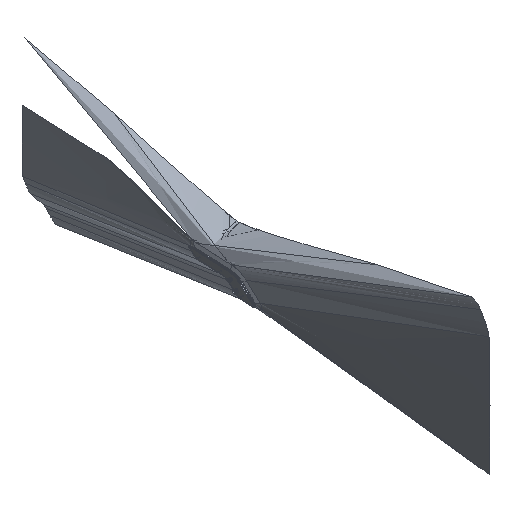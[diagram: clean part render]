
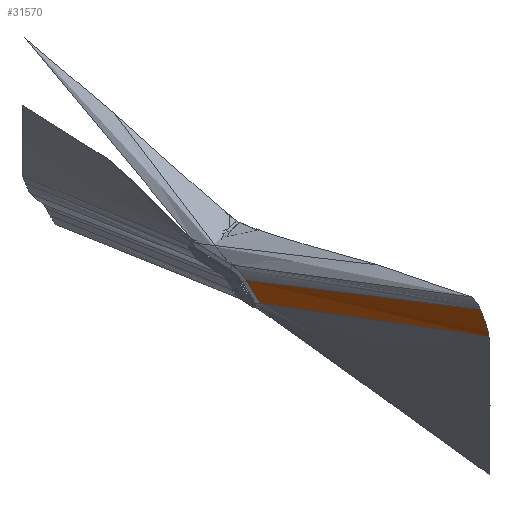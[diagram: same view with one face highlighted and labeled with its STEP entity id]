
A CAD part, isometric view. The second image highlights one B-rep face of the part: STEP entity #31570.
In plain terms, the highlighted free-form (B-spline) face has degree [5, 1] with [9, 2] control points.
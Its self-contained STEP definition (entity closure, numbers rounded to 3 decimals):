
#17750=CARTESIAN_POINT('Vertex',(25.,76.149,92.814)) ;
#18334=CARTESIAN_POINT('Control Point',(25.,76.149,92.814)) ;
#18335=CARTESIAN_POINT('Control Point',(200.,-1124.274,457.232)) ;
#18336=CARTESIAN_POINT('Vertex',(200.,-1124.274,457.232)) ;
#24392=CARTESIAN_POINT('Control Point',(25.,-6.43,17.145)) ;
#24393=CARTESIAN_POINT('Control Point',(200.,-1173.596,344.205)) ;
#24394=CARTESIAN_POINT('Vertex',(25.,-6.43,17.145)) ;
#24396=CARTESIAN_POINT('Vertex',(200.,-1173.596,344.205)) ;
#31506=CARTESIAN_POINT('Control Point',(25.,76.149,92.814)) ;
#31507=CARTESIAN_POINT('Control Point',(446.154,-2812.782,969.821)) ;
#31508=CARTESIAN_POINT('Control Point',(25.,65.324,82.895)) ;
#31509=CARTESIAN_POINT('Control Point',(446.533,-2815.476,960.507)) ;
#31510=CARTESIAN_POINT('Control Point',(25.,54.497,72.974)) ;
#31511=CARTESIAN_POINT('Control Point',(446.969,-2818.582,949.633)) ;
#31512=CARTESIAN_POINT('Control Point',(25.,45.846,65.047)) ;
#31513=CARTESIAN_POINT('Control Point',(447.413,-2821.738,938.363)) ;
#31514=CARTESIAN_POINT('Control Point',(25.,24.441,45.433)) ;
#31515=CARTESIAN_POINT('Control Point',(448.512,-2829.561,909.982)) ;
#31516=CARTESIAN_POINT('Control Point',(25.,5.622,28.189)) ;
#31517=CARTESIAN_POINT('Control Point',(449.808,-2838.78,874.849)) ;
#31518=CARTESIAN_POINT('Control Point',(25.,0.174,23.196)) ;
#31519=CARTESIAN_POINT('Control Point',(450.442,-2843.293,856.759)) ;
#31520=CARTESIAN_POINT('Control Point',(25.,-3.604,19.734)) ;
#31521=CARTESIAN_POINT('Control Point',(451.069,-2847.757,838.831)) ;
#31522=CARTESIAN_POINT('Control Point',(25.,-6.43,17.145)) ;
#31523=CARTESIAN_POINT('Control Point',(451.861,-2853.389,814.911)) ;
#31525=CARTESIAN_POINT('Control Point',(25.,76.149,92.814)) ;
#31526=CARTESIAN_POINT('Control Point',(25.,65.324,82.895)) ;
#31527=CARTESIAN_POINT('Control Point',(25.,54.497,72.974)) ;
#31528=CARTESIAN_POINT('Control Point',(25.,45.846,65.047)) ;
#31529=CARTESIAN_POINT('Control Point',(25.,24.441,45.433)) ;
#31530=CARTESIAN_POINT('Control Point',(25.,5.622,28.189)) ;
#31531=CARTESIAN_POINT('Control Point',(25.,0.174,23.196)) ;
#31532=CARTESIAN_POINT('Control Point',(25.,-3.604,19.734)) ;
#31533=CARTESIAN_POINT('Control Point',(25.,-6.43,17.145)) ;
#31536=CARTESIAN_POINT('Control Point',(200.,-1124.274,457.232)) ;
#31537=CARTESIAN_POINT('Control Point',(200.,-1127.592,452.024)) ;
#31538=CARTESIAN_POINT('Control Point',(200.,-1130.872,446.692)) ;
#31539=CARTESIAN_POINT('Control Point',(200.,-1134.015,441.359)) ;
#31540=CARTESIAN_POINT('Control Point',(200.,-1139.038,432.485)) ;
#31541=CARTESIAN_POINT('Control Point',(200.,-1143.778,423.607)) ;
#31542=CARTESIAN_POINT('Control Point',(200.,-1145.64,420.047)) ;
#31543=CARTESIAN_POINT('Control Point',(200.,-1147.847,415.753)) ;
#31544=CARTESIAN_POINT('Control Point',(200.,-1150.017,411.426)) ;
#31545=CARTESIAN_POINT('Control Point',(200.,-1150.379,410.701)) ;
#31546=CARTESIAN_POINT('Control Point',(200.,-1151.101,409.251)) ;
#31547=CARTESIAN_POINT('Control Point',(200.,-1151.818,407.796)) ;
#31548=CARTESIAN_POINT('Control Point',(200.,-1152.177,407.062)) ;
#31549=CARTESIAN_POINT('Control Point',(200.,-1153.732,403.876)) ;
#31550=CARTESIAN_POINT('Control Point',(200.,-1155.257,400.674)) ;
#31551=CARTESIAN_POINT('Control Point',(200.,-1156.41,398.203)) ;
#31552=CARTESIAN_POINT('Control Point',(200.,-1158.931,392.673)) ;
#31553=CARTESIAN_POINT('Control Point',(200.,-1161.268,387.231)) ;
#31554=CARTESIAN_POINT('Control Point',(200.,-1162.499,384.245)) ;
#31555=CARTESIAN_POINT('Control Point',(200.,-1164.666,378.741)) ;
#31556=CARTESIAN_POINT('Control Point',(200.,-1166.554,373.423)) ;
#31557=CARTESIAN_POINT('Control Point',(200.,-1167.371,370.983)) ;
#31558=CARTESIAN_POINT('Control Point',(200.,-1169.53,364.11)) ;
#31559=CARTESIAN_POINT('Control Point',(200.,-1171.202,357.473)) ;
#31560=CARTESIAN_POINT('Control Point',(200.,-1172.108,353.196)) ;
#31561=CARTESIAN_POINT('Control Point',(200.,-1172.899,348.804)) ;
#31562=CARTESIAN_POINT('Control Point',(200.,-1173.596,344.205)) ;
#31565=ORIENTED_EDGE('',*,*,#18338,.F.) ;
#31566=ORIENTED_EDGE('',*,*,#31534,.F.) ;
#31567=ORIENTED_EDGE('',*,*,#24398,.T.) ;
#31568=ORIENTED_EDGE('',*,*,#31563,.F.) ;
#31570=ADVANCED_FACE('Geometric Visibility Cone / RH+LH / Direction Indicator',(#31569),#31505,.T.) ;
#18333=B_SPLINE_CURVE_WITH_KNOTS('',1,(#18334,#18335),.UNSPECIFIED.,.F.,.U.,(2,2),(0.,1280.614),.UNSPECIFIED.) ;
#24391=B_SPLINE_CURVE_WITH_KNOTS('',1,(#24392,#24393),.UNSPECIFIED.,.F.,.U.,(2,2),(0.,1263.493),.UNSPECIFIED.) ;
#31524=B_SPLINE_CURVE_WITH_KNOTS('',5,(#31525,#31526,#31527,#31528,#31529,#31530,#31531,#31532,#31533),.UNSPECIFIED.,.F.,.U.,(6,3,6),(0.,62.218,150.194),.UNSPECIFIED.) ;
#31535=B_SPLINE_CURVE_WITH_KNOTS('',5,(#31536,#31537,#31538,#31539,#31540,#31541,#31542,#31543,#31544,#31545,#31546,#31547,#31548,#31549,#31550,#31551,#31552,#31553,#31554,#31555,#31556,#31557,#31558,#31559,#31560,#31561,#31562),.UNSPECIFIED.,.F.,.U.,(6,3,3,3,3,3,3,3,6),(0.,44.873,74.842,80.866,86.88,107.158,132.526,154.748,196.092),.UNSPECIFIED.) ;
#31505=B_SPLINE_SURFACE_WITH_KNOTS('',5,1,((#31506,#31507),(#31508,#31509),(#31510,#31511),(#31512,#31513),(#31514,#31515),(#31516,#31517),(#31518,#31519),(#31520,#31521),(#31522,#31523)),.UNSPECIFIED.,.F.,.F.,.U.,(6,3,6),(2,2),(0.,62.218,150.194),(0.,3081.919),.UNSPECIFIED.) ;
#18338=EDGE_CURVE('',#17751,#18337,#18333,.T.) ;
#24398=EDGE_CURVE('',#24395,#24397,#24391,.T.) ;
#31534=EDGE_CURVE('',#24395,#17751,#31524,.F.) ;
#31563=EDGE_CURVE('',#18337,#24397,#31535,.T.) ;
#31564=EDGE_LOOP('',(#31565,#31566,#31567,#31568)) ;
#31569=FACE_OUTER_BOUND('',#31564,.T.) ;
#17751=VERTEX_POINT('',#17750) ;
#18337=VERTEX_POINT('',#18336) ;
#24395=VERTEX_POINT('',#24394) ;
#24397=VERTEX_POINT('',#24396) ;
